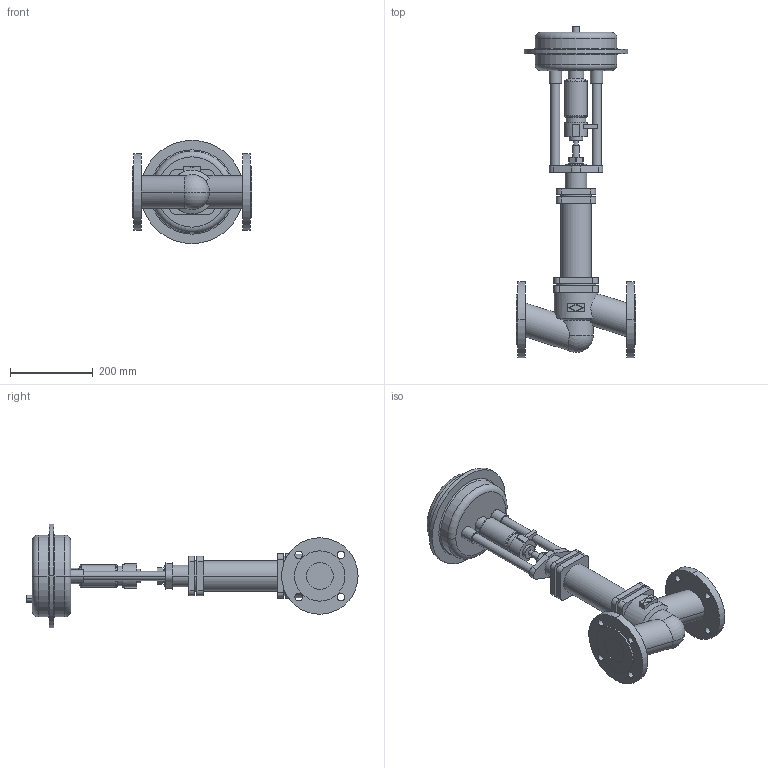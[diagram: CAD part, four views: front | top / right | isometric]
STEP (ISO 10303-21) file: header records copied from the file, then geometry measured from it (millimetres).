
FILE_DESCRIPTION(('OneSpaceDesigner STEP Export'),'2;1');
FILE_NAME('c000000379.stp','2005-12-12T10:37:28',(''),(''),'OneSpace Designer STEP processor for AP203 (Solid Model)','OneSpace Designer 13.20A 18-Aug-2005 (C) CoCreate Software GmbH','');
FILE_SCHEMA(('CONFIG_CONTROL_DESIGN'));
Length unit declared in the file: millimetre
Products named in the file (1): 1
Bounding box: 290 x 804 x 250 mm (x, y, z)
Volume: 7981398 mm3; surface area: 550160.9 mm2
Topology: 1 solids, 1 shells, 218 faces, 537 edges, 351 vertices
Faces by surface type: cylinder 104, plane 90, torus 16, cone 6, sphere 2
Entity records: 6187 total; most frequent: CARTESIAN_POINT 1261, ORIENTED_EDGE 1070, DIRECTION 925, EDGE_CURVE 535, VERTEX_POINT 351, AXIS2_PLACEMENT_3D 332, EDGE_LOOP 270, VECTOR 261
